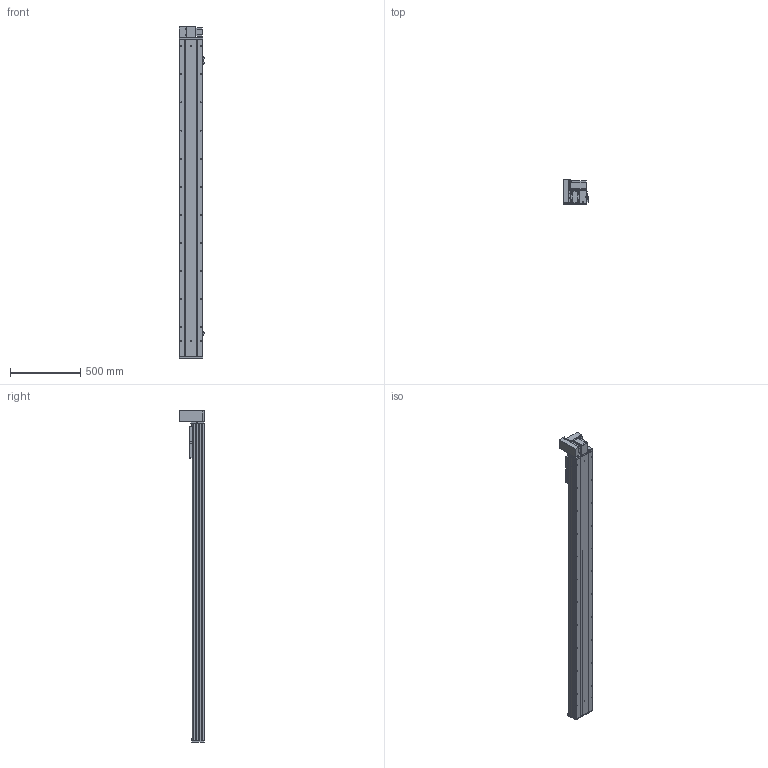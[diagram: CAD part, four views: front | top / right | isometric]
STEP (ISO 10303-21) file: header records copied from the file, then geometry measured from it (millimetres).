
FILE_DESCRIPTION (( 'STEP AP203' ), '1' );
FILE_NAME ('Y170CB-D105-S1950-UL-P400W.STEP', '2020-02-20T02:50:22', ( '微软用户' ), ( '微软中国' ), 'SwSTEP 2.0', 'SolidWorks 2017', '' );
FILE_SCHEMA (( 'CONFIG_CONTROL_DESIGN' ));
Length unit declared in the file: millimetre
Products named in the file (18): san松下电机400不带刹车----; 00B-俋欶BM--163; 70C-雄赽釱-奻-; 70CB-掛极-; Y170CB-D105-S1950-UL-P400W; 0C--雄赽釱俋欶-170; --70CB --喘謫眊楊擘啣-; 70CB-詩湍--; 70CB-耜裔啣-; Y100-135俋离換覜ん--; 70C--詩湍揤踡え-; Y170CB-陔俋离換覜結え---; 70CB--耜裔; 70B喘謫眊----; B-源倛裔啣; Y1埴倛裔; 0B-萇儂楊擘啣; 17B-耜蚾蟀諉啣----
Assembly tree (21 placements, depth 2):
  Y170CB-D105-S1950-UL-P400W
    B-源倛裔啣
    0B-萇儂楊擘啣
    san松下电机400不带刹车----
    70CB-掛极-
    --70CB --喘謫眊楊擘啣-
    70CB-耜裔啣-  x2
    70C--詩湍揤踡え-  x2
    70CB--耜裔
    70C-雄赽釱-奻-
    0C--雄赽釱俋欶-170
    70CB-詩湍--
    Y100-135俋离換覜ん--  x3
    Y170CB-陔俋离換覜結え---
    70B喘謫眊----
    Y1埴倛裔
    17B-耜蚾蟀諉啣----
    00B-俋欶BM--163
Bounding box: 183.5 x 174 x 2366 mm (x, y, z)
Volume: 10279712.2 mm3; surface area: 3705828.5 mm2
Topology: 21 solids, 21 shells, 1047 faces, 2813 edges, 1866 vertices
Faces by surface type: cylinder 561, plane 462, cone 24
Entity records: 33496 total; most frequent: CARTESIAN_POINT 6156, DIRECTION 5450, ORIENTED_EDGE 5108, EDGE_CURVE 2554, AXIS2_PLACEMENT_3D 2008, VERTEX_POINT 1696, VECTOR 1434, LINE 1434
